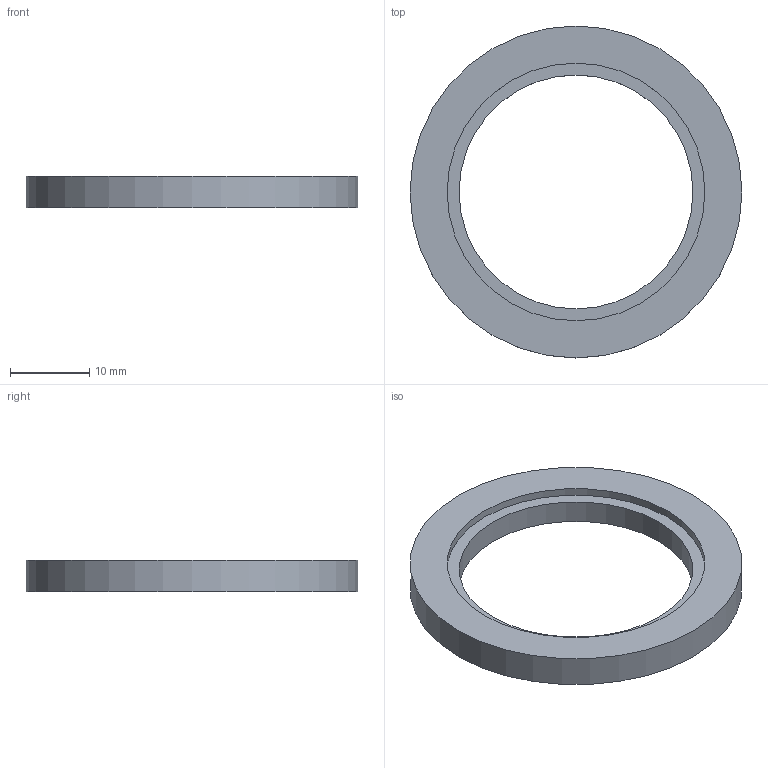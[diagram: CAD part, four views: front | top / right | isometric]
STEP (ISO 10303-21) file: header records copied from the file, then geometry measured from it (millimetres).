
FILE_DESCRIPTION(('Open CASCADE Model'),'2;1');
FILE_NAME('Open CASCADE Shape Model','2026-10-02T15:58:28',('Author'),( 'Open CASCADE'),'Open CASCADE STEP processor 8.0','build123d', 'Unknown');
FILE_SCHEMA(('AUTOMOTIVE_DESIGN { 1 0 10303 214 1 1 1 1 }'));
Length unit declared in the file: millimetre
Products named in the file (1): COMPOUND
Bounding box: 42 x 42 x 4 mm (x, y, z)
Volume: 2642.7 mm3; surface area: 2303.8 mm2
Topology: 1 solids, 1 shells, 6 faces, 9 edges, 6 vertices
Faces by surface type: cylinder 3, plane 3
Full cylindrical faces by diameter (mm): 29.6 x1, 32.6 x1, 42 x1
Entity records: 270 total; most frequent: DIRECTION 47, CARTESIAN_POINT 40, ORIENTED_EDGE 18, PCURVE 18, DEFINITIONAL_REPRESENTATION 18, LINE 15, VECTOR 15, AXIS2_PLACEMENT_3D 13
